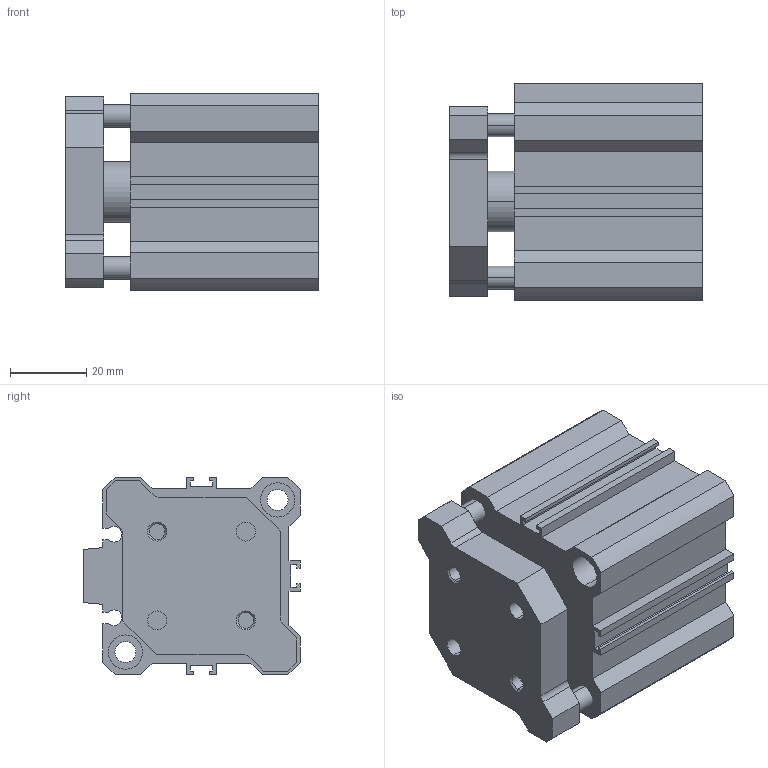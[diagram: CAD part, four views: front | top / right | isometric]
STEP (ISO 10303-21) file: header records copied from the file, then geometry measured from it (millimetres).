
FILE_DESCRIPTION (( 'STEP AP203' ), '1' );
FILE_NAME ('CCMG40-10.STEP', '2020-04-01T18:44:49', ( '' ), ( '' ), 'SwSTEP 2.0', 'SolidWorks 2019', '' );
FILE_SCHEMA (( 'CONFIG_CONTROL_DESIGN' ));
Length unit declared in the file: millimetre
Products named in the file (1): CCMG40-10
Bounding box: 66.5 x 57 x 52 mm (x, y, z)
Volume: 127652 mm3; surface area: 39326.2 mm2
Topology: 2 solids, 2 shells, 164 faces, 428 edges, 278 vertices
Faces by surface type: plane 92, cylinder 56, cone 16
Entity records: 5099 total; most frequent: DIRECTION 878, CARTESIAN_POINT 867, ORIENTED_EDGE 848, EDGE_CURVE 424, LINE 300, VECTOR 300, AXIS2_PLACEMENT_3D 289, VERTEX_POINT 278
